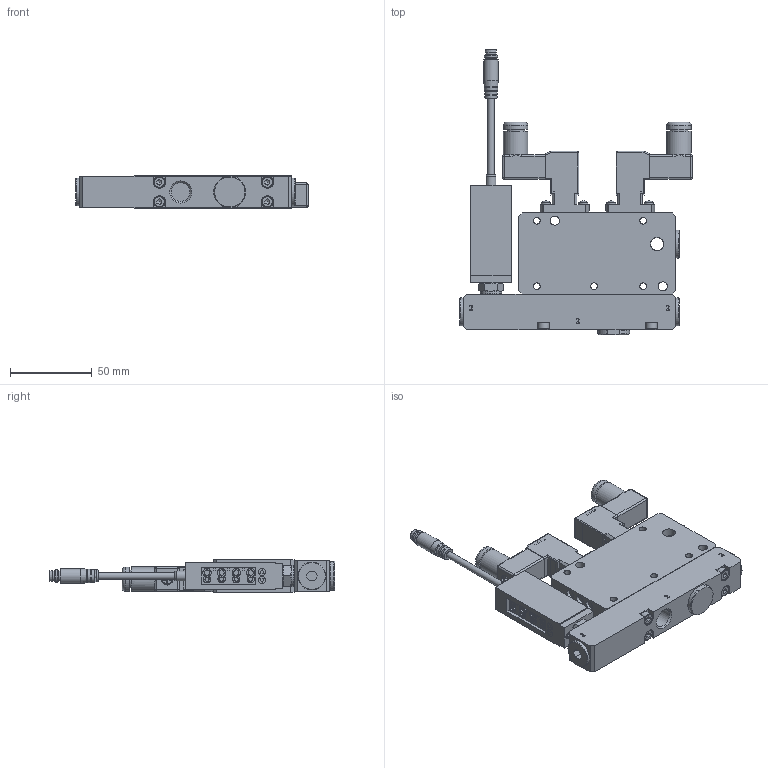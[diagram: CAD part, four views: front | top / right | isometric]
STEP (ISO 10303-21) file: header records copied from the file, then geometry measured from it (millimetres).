
FILE_DESCRIPTION(/* description */ ('GENERATORI DI VUOTO MULTISTADIO MODULARE 2 UGELLI (GVMES-2) CON VACUOSTATO E CONNETTORE M8'),/* implementation_level */ '2;1');
FILE_NAME(/* name */ 'C:\PNX_VAULTFOLDER\Area Tecnica\Disegni\VARIE-3D\Componenti\1900 (vuoto)\19M14_M_09_ME_EF.stp',/* time_stamp */ '2021-05-04T09:57:03+02:00',/* author */ ('maniean1'),/* organization */ (''),/* preprocessor_version */ 'ST-DEVELOPER v18.1',/* originating_system */ 'Autodesk Inventor 2021',/* authorisation */ '');
FILE_SCHEMA (('AUTOMOTIVE_DESIGN { 1 0 10303 214 3 1 1 }'));
Length unit declared in the file: millimetre
Products named in the file (8): 19M14.M.09.ME.EF; 19M14_M_09_ME_ED_c; N221.0F; DS.30.C.C.F8.#.2; DS.30.C.C.F8.#.0; CONN_4P; T10714; 315.11.00
Assembly tree (11 placements, depth 3):
  19M14.M.09.ME.EF
    19M14_M_09_ME_ED_c
    N221.0F  x2
    DS.30.C.C.F8.#.2
      DS.30.C.C.F8.#.0
      CONN_4P
    T10714  x3
    315.11.00  x2
Bounding box: 141.9 x 174.3 x 20 mm (x, y, z)
Volume: 211391.3 mm3; surface area: 55377.2 mm2
Topology: 10 solids, 33 shells, 1291 faces, 3207 edges, 2065 vertices
Faces by surface type: plane 678, cylinder 278, bspline 218, cone 71, torus 28, sphere 18
Full cylindrical faces by diameter (mm): 0.6 x3, 1 x8, 2 x2, 2.2 x2, 2.459 x6, 3 x6, 3.2 x4, 3.242 x4, 3.8 x4, 4 x7, 4.1 x5, 4.4 x1, 4.9 x1, 5.5 x9, 5.8 x1, 6 x1, 6.5 x4, 6.9 x1, 7 x7, 7.6 x2, 8 x3, 8.566 x1, 9 x1, 9.73 x1, 10 x1, 10.4 x1, 10.8 x2, 11.445 x4, 12.9 x1, 13 x1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
Entity records: 36001 total; most frequent: CARTESIAN_POINT 13930, ORIENTED_EDGE 4486, DIRECTION 3846, EDGE_CURVE 2243, VERTEX_POINT 1464, LINE 1282, VECTOR 1282, AXIS2_PLACEMENT_3D 1282
